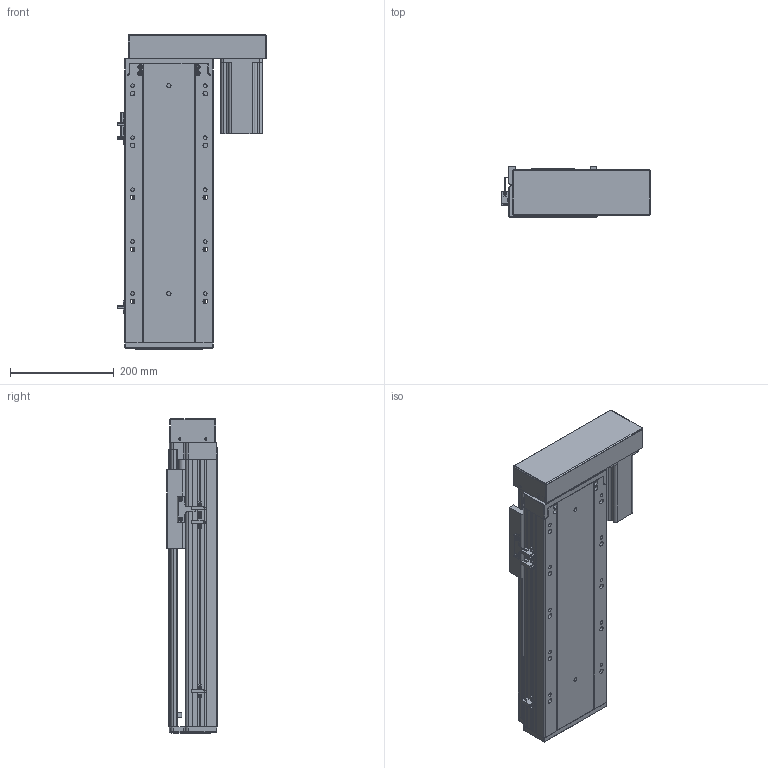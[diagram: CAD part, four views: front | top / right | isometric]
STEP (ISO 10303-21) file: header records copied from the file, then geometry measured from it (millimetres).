
FILE_DESCRIPTION (( 'STEP AP203' ), '1' );
FILE_NAME ('RY170-L2510-300-RK.SLDASM_300.step', '2021-03-12T09:18:23', ( '盈信电脑' ), ( '东莞市道滘镇水果街19号' ), 'SwSTEP 2.0', 'SolidWorks 2012', '' );
FILE_SCHEMA (( 'CONFIG_CONTROL_DESIGN' ));
Products named in the file (14): 改造-RY170铝滑块25丝杆螺母; 滅袉蝶18-20; RY170綴裔啣; RY170-300倰第裔啣-RK; RY170-300倰第菁釱-RK; 覜茼ん672; RY170-L2510-300-RK.SLDASM_300; RY170外置感应片(200共用）; RY170酘衵殏萇儂欶750W; RY170-左右折电机安装板750W; 怢湛750W萇儂ㄗ80遺ㄘ; RY170-酘衵殏750W萇儂傷; 滅袉蝶18-10; RY170转折电机端支撑座(7004)
Assembly tree (15 placements, depth 3):
  RY170-L2510-300-RK.SLDASM_300
    RY170-300倰第菁釱-RK
    改造-RY170铝滑块25丝杆螺母
    RY170-300倰第裔啣-RK
    RY170綴裔啣
    滅袉蝶18-20
    滅袉蝶18-10
    RY170转折电机端支撑座(7004)
    RY170-酘衵殏750W萇儂傷
      RY170-左右折电机安装板750W
      RY170酘衵殏萇儂欶750W
      怢湛750W萇儂ㄗ80遺ㄘ
    覜茼ん672  x3
    RY170外置感应片(200共用）
Bounding box: 286.2 x 97 x 605 mm (x, y, z)
Volume: 4290945 mm3; surface area: 1219784.9 mm2
Topology: 14 solids, 14 shells, 2039 faces, 5802 edges, 3748 vertices
Faces by surface type: plane 1082, cylinder 800, cone 138, bspline 19
Entity records: 65107 total; most frequent: CARTESIAN_POINT 15153, ORIENTED_EDGE 10420, DIRECTION 9698, EDGE_CURVE 5210, VERTEX_POINT 3428, VECTOR 3316, LINE 3316, AXIS2_PLACEMENT_3D 3191
